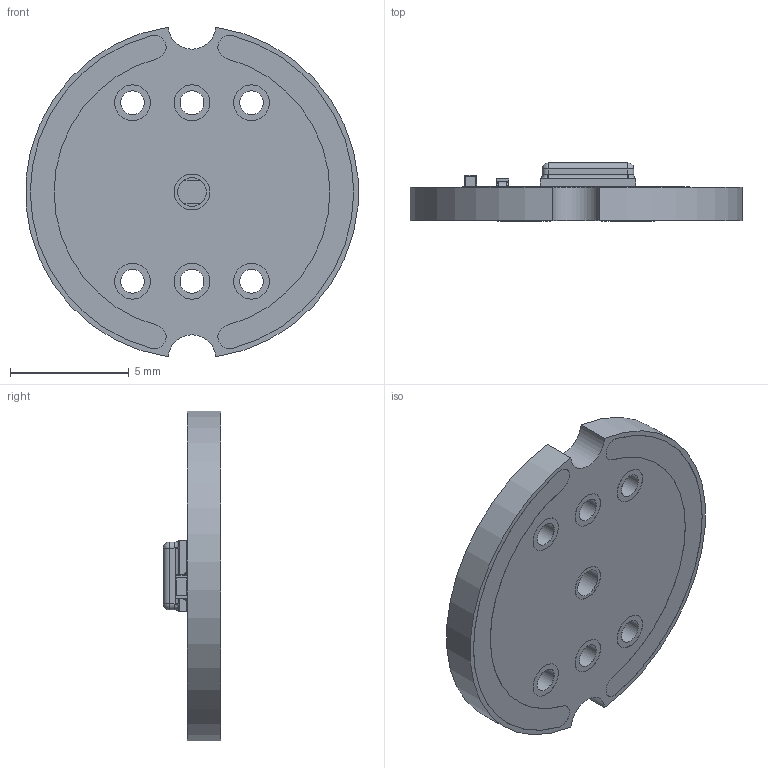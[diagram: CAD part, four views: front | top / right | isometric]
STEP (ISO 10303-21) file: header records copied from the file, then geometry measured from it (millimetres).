
FILE_DESCRIPTION(/* description */ (''),/* implementation_level */ '2;1');
FILE_NAME(/* name */ 'MEMS I2S I.stp',/* time_stamp */ '2026-07-13T09:16:35+03:00',/* author */ ('USER'),/* organization */ (''),/* preprocessor_version */ 'ST-DEVELOPER v20',/* originating_system */ 'Autodesk Inventor 2025',/* authorisation */ '');
FILE_SCHEMA (('AUTOMOTIVE_DESIGN { 1 0 10303 214 3 1 1 }'));
Length unit declared in the file: millimetre
Products named in the file (7): MEMS I2S I; INMP441 MEMS I2S MICROPHONE PCB; MSM261S4030; MSM261S4030_1; MSM261S4030_cover; Resistor 0402; C0402-T50-X7R
Assembly tree (6 placements, depth 3):
  MEMS I2S I
    INMP441 MEMS I2S MICROPHONE PCB
    MSM261S4030
      MSM261S4030_1
      MSM261S4030_cover
    Resistor 0402
    C0402-T50-X7R
Bounding box: 13.95 x 2.43 x 13.86 mm (x, y, z)
Volume: 209.4 mm3; surface area: 631.5 mm2
Topology: 38 solids, 38 shells, 585 faces, 1402 edges, 900 vertices
Faces by surface type: plane 281, bspline 199, cylinder 97, sphere 8
Full cylindrical faces by diameter (mm): 1 x18, 1.2 x2, 1.5 x13
Entity records: 21757 total; most frequent: CARTESIAN_POINT 8413, ORIENTED_EDGE 2788, DIRECTION 2100, EDGE_CURVE 1394, VERTEX_POINT 900, LINE 826, VECTOR 826, EDGE_LOOP 646
